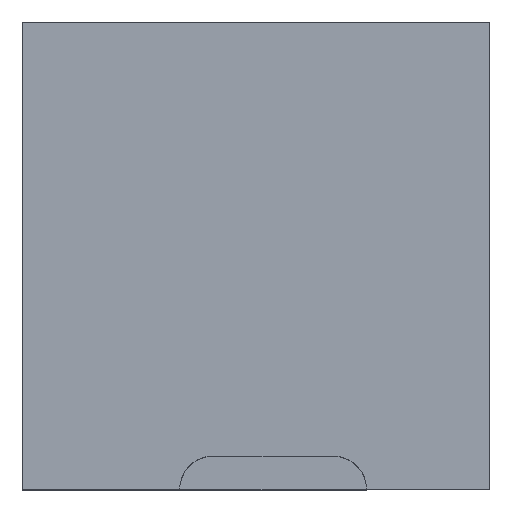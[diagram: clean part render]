
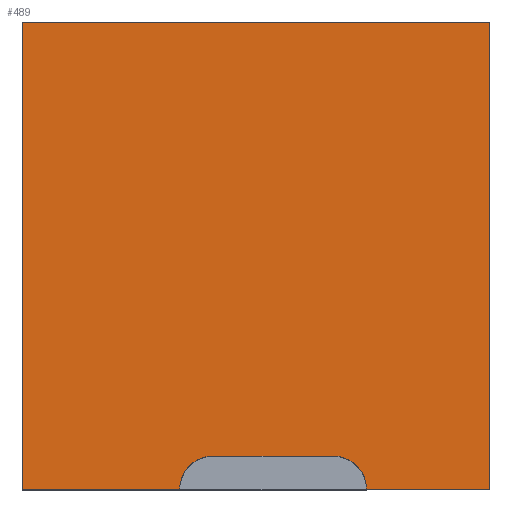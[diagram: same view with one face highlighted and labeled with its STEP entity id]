
A CAD part, top view. The second image highlights one B-rep face of the part: STEP entity #489.
In plain terms, the highlighted planar face has unit normal (0, 0, 1).
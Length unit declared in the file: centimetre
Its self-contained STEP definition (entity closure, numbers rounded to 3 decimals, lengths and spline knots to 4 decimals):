
#12 = ORIENTED_EDGE ( 'NONE', *, *, #169, .F. ) ;
#38 = DIRECTION ( 'NONE',  ( 1., 0., 0. ) ) ;
#44 = LINE ( 'NONE', #294, #772 ) ;
#61 = VECTOR ( 'NONE', #701, 100. ) ;
#92 = AXIS2_PLACEMENT_3D ( 'NONE', #524, #843, #362 ) ;
#115 = VERTEX_POINT ( 'NONE', #781 ) ;
#146 = DIRECTION ( 'NONE',  ( 0., 0., 1. ) ) ;
#152 = DIRECTION ( 'NONE',  ( 0., -1., 0. ) ) ;
#169 = EDGE_CURVE ( 'NONE', #377, #416, #885, .T. ) ;
#172 = EDGE_CURVE ( 'NONE', #461, #416, #281, .T. ) ;
#200 = AXIS2_PLACEMENT_3D ( 'NONE', #970, #146, #395 ) ;
#230 = VECTOR ( 'NONE', #38, 100. ) ;
#272 = CARTESIAN_POINT ( 'NONE',  ( 736.5123, 0., 1000. ) ) ;
#281 = LINE ( 'NONE', #982, #418 ) ;
#286 = VERTEX_POINT ( 'NONE', #272 ) ;
#294 = CARTESIAN_POINT ( 'NONE',  ( 1000., 1000., 1000. ) ) ;
#297 = EDGE_CURVE ( 'NONE', #948, #951, #923, .T. ) ;
#327 = FACE_OUTER_BOUND ( 'NONE', #926, .T. ) ;
#362 = DIRECTION ( 'NONE',  ( 1., 0., 0. ) ) ;
#377 = VERTEX_POINT ( 'NONE', #575 ) ;
#395 = DIRECTION ( 'NONE',  ( 1., 0., 0. ) ) ;
#398 = EDGE_CURVE ( 'NONE', #115, #377, #947, .T. ) ;
#409 = PLANE ( 'NONE',  #200 ) ;
#416 = VERTEX_POINT ( 'NONE', #545 ) ;
#418 = VECTOR ( 'NONE', #536, 100. ) ;
#423 = CIRCLE ( 'NONE', #92, 70.9561 ) ;
#434 = EDGE_CURVE ( 'NONE', #286, #853, #857, .T. ) ;
#440 = CARTESIAN_POINT ( 'NONE',  ( 0., 1000., 1000. ) ) ;
#458 = CARTESIAN_POINT ( 'NONE',  ( 665.5562, 70.9561, 1000. ) ) ;
#461 = VERTEX_POINT ( 'NONE', #737 ) ;
#483 = CARTESIAN_POINT ( 'NONE',  ( 407.4474, 0., 1000. ) ) ;
#489 = ADVANCED_FACE ( 'NONE', ( #327 ), #409, .T. ) ;
#499 = ORIENTED_EDGE ( 'NONE', *, *, #398, .F. ) ;
#520 = ORIENTED_EDGE ( 'NONE', *, *, #975, .T. ) ;
#524 = CARTESIAN_POINT ( 'NONE',  ( 665.5562, 0., 1000. ) ) ;
#536 = DIRECTION ( 'NONE',  ( 1., 0., 0. ) ) ;
#545 = CARTESIAN_POINT ( 'NONE',  ( 336.4913, 0., 1000. ) ) ;
#546 = ORIENTED_EDGE ( 'NONE', *, *, #434, .T. ) ;
#552 = VECTOR ( 'NONE', #764, 100. ) ;
#575 = CARTESIAN_POINT ( 'NONE',  ( 407.4474, 70.9561, 1000. ) ) ;
#577 = CARTESIAN_POINT ( 'NONE',  ( 1000., 1000., 1000. ) ) ;
#622 = CARTESIAN_POINT ( 'NONE',  ( 0., 0., 1000. ) ) ;
#640 = VECTOR ( 'NONE', #152, 100. ) ;
#650 = EDGE_CURVE ( 'NONE', #286, #115, #423, .T. ) ;
#701 = DIRECTION ( 'NONE',  ( -1., 0., 0. ) ) ;
#707 = DIRECTION ( 'NONE',  ( 0., 1., 0. ) ) ;
#712 = ORIENTED_EDGE ( 'NONE', *, *, #172, .T. ) ;
#737 = CARTESIAN_POINT ( 'NONE',  ( 0., 0., 1000. ) ) ;
#764 = DIRECTION ( 'NONE',  ( -1., 0., 0. ) ) ;
#771 = ORIENTED_EDGE ( 'NONE', *, *, #297, .T. ) ;
#772 = VECTOR ( 'NONE', #707, 100. ) ;
#781 = CARTESIAN_POINT ( 'NONE',  ( 665.5562, 70.9561, 1000. ) ) ;
#791 = EDGE_CURVE ( 'NONE', #853, #948, #44, .T. ) ;
#801 = CARTESIAN_POINT ( 'NONE',  ( 1000., 0., 1000. ) ) ;
#828 = AXIS2_PLACEMENT_3D ( 'NONE', #483, #895, #1048 ) ;
#843 = DIRECTION ( 'NONE',  ( 0., 0., 1. ) ) ;
#853 = VERTEX_POINT ( 'NONE', #801 ) ;
#857 = LINE ( 'NONE', #622, #230 ) ;
#877 = ORIENTED_EDGE ( 'NONE', *, *, #791, .T. ) ;
#884 = LINE ( 'NONE', #896, #640 ) ;
#885 = CIRCLE ( 'NONE', #828, 70.9561 ) ;
#894 = ORIENTED_EDGE ( 'NONE', *, *, #650, .F. ) ;
#895 = DIRECTION ( 'NONE',  ( 0., 0., 1. ) ) ;
#896 = CARTESIAN_POINT ( 'NONE',  ( 0., 1000., 1000. ) ) ;
#923 = LINE ( 'NONE', #440, #552 ) ;
#926 = EDGE_LOOP ( 'NONE', ( #12, #499, #894, #546, #877, #771, #520, #712 ) ) ;
#947 = LINE ( 'NONE', #458, #61 ) ;
#948 = VERTEX_POINT ( 'NONE', #577 ) ;
#951 = VERTEX_POINT ( 'NONE', #1044 ) ;
#970 = CARTESIAN_POINT ( 'NONE',  ( 0., 0., 1000. ) ) ;
#975 = EDGE_CURVE ( 'NONE', #951, #461, #884, .T. ) ;
#982 = CARTESIAN_POINT ( 'NONE',  ( 0., 0., 1000. ) ) ;
#1044 = CARTESIAN_POINT ( 'NONE',  ( 0., 1000., 1000. ) ) ;
#1048 = DIRECTION ( 'NONE',  ( 1., 0., 0. ) ) ;
